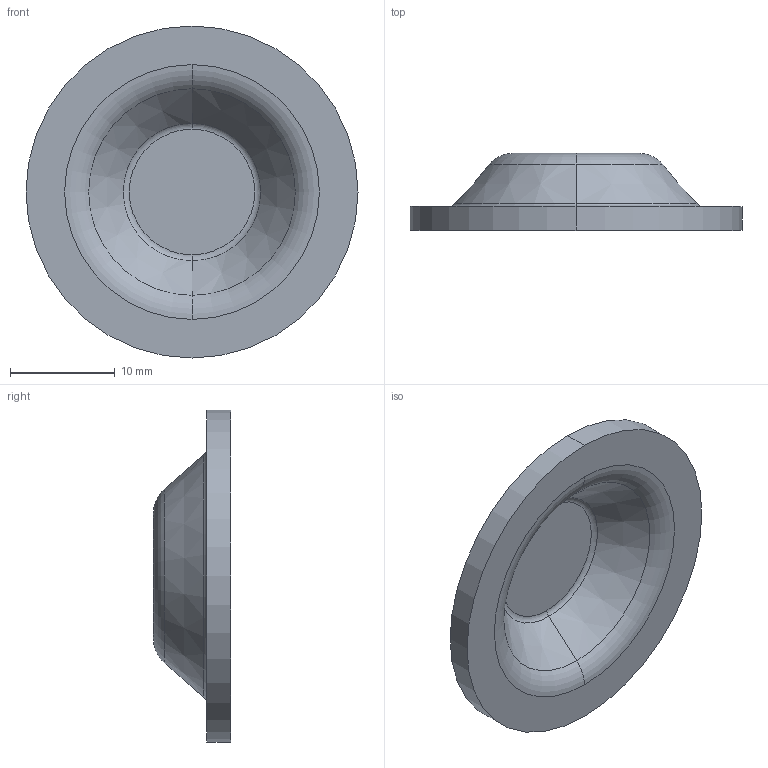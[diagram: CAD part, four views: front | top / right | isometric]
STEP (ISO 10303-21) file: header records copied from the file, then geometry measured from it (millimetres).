
FILE_DESCRIPTION (( 'STEP AP203' ), '1' );
FILE_NAME ('942264 - 10.STEP', '2024-11-18T14:30:35', ( '' ), ( '' ), 'SwSTEP 2.0', 'SolidWorks 2024', '' );
FILE_SCHEMA (( 'CONFIG_CONTROL_DESIGN' ));
Length unit declared in the file: inch
Products named in the file (1): 942264 - 10
Bounding box: 31.75 x 7.37 x 31.75 mm (x, y, z)
Volume: 2083.3 mm3; surface area: 2050.7 mm2
Topology: 1 solids, 1 shells, 18 faces, 34 edges, 20 vertices
Faces by surface type: torus 8, cone 4, plane 4, cylinder 2
Entity records: 541 total; most frequent: DIRECTION 100, CARTESIAN_POINT 73, ORIENTED_EDGE 68, AXIS2_PLACEMENT_3D 47, EDGE_CURVE 34, CIRCLE 28, VERTEX_POINT 20, EDGE_LOOP 20
